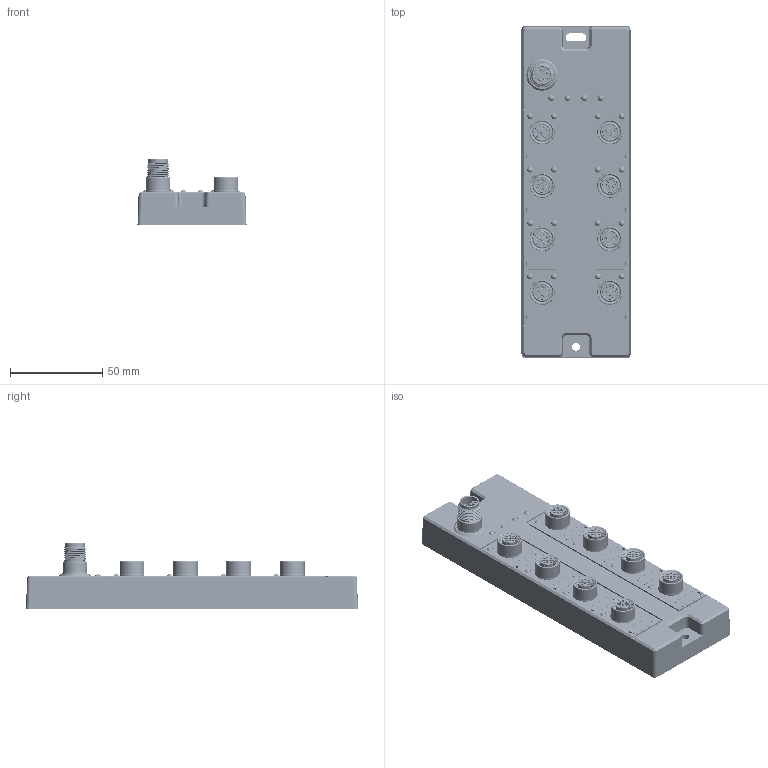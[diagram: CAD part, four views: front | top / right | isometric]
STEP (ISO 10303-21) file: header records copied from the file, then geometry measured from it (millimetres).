
FILE_DESCRIPTION((''),'2;1');
FILE_NAME('STORM67_D-ALL_ASM_32_ASM','2024-12-27T10:33:49',('Administrator'),('yulong DESIGN'),'CREO PARAMETRIC BY PTC INC, 2021023','CREO PARAMETRIC BY PTC INC, 2021023','');
FILE_SCHEMA(('AUTOMOTIVE_DESIGN { 1 0 10303 214 1 1 1 1 }'));
Products named in the file (14): A000_1052_179_286_33; G1000106__1_1_1_A_165_101_129_3; 000_141_101_127_32; 000_137_103_127_32; M12LE4C-FPBRCU-0020001_ASM_15_2; _5_1_0001_101_25; _5_2_0001_101_25; M12D41110001_ASM_101_ASM_25_ASM; M12D04C-FPBRCU-0040001_ASM_101__ASM; _5_1__10001_101_13; _5_2__10001_101_13; M12D_10001_ASM_101_ASM_13_ASM; ASM0008_ASM_101_ASM_13_ASM; STORM67_D-ALL_ASM_32_ASM
Assembly tree (45 placements, depth 4):
  STORM67_D-ALL_ASM_32_ASM
    A000_1052_179_286_33
    G1000106__1_1_1_A_165_101_129_3
    000_141_101_127_32  x8
    000_137_103_127_32  x20
    M12LE4C-FPBRCU-0020001_ASM_15_2
    M12D04C-FPBRCU-0040001_ASM_101__ASM  x4
      M12D41110001_ASM_101_ASM_25_ASM
        _5_1_0001_101_25
        _5_2_0001_101_25
    ASM0008_ASM_101_ASM_13_ASM  x4
      M12D_10001_ASM_101_ASM_13_ASM
        _5_1__10001_101_13
        _5_2__10001_101_13
Bounding box: 59.16 x 180.16 x 35.6 mm (x, y, z)
Volume: 196075.4 mm3; surface area: 59550 mm2
Topology: 46 solids, 48 shells, 3617 faces, 8822 edges, 5598 vertices
Faces by surface type: cylinder 1362, plane 1350, cone 491, torus 179, bspline 175, sphere 56, extrusion 4
Entity records: 68669 total; most frequent: CARTESIAN_POINT 24728, DIRECTION 7075, ORIENTED_EDGE 6616, EDGE_CURVE 3308, AXIS2_PLACEMENT_3D 2733, PRESENTATION_STYLE_ASSIGNMENT 2462, STYLED_ITEM 2319, VERTEX_POINT 2149
